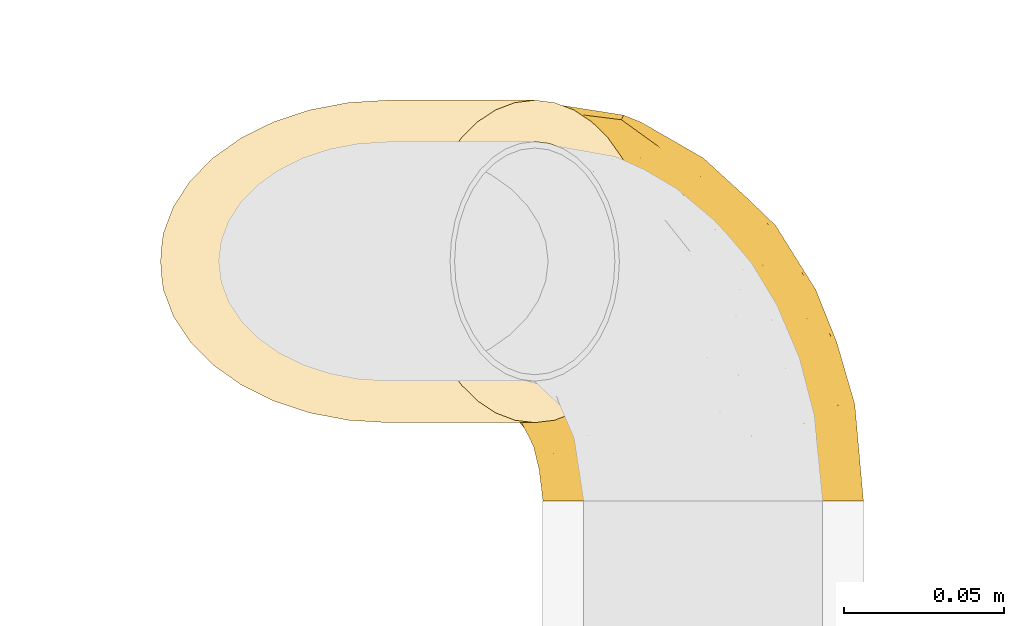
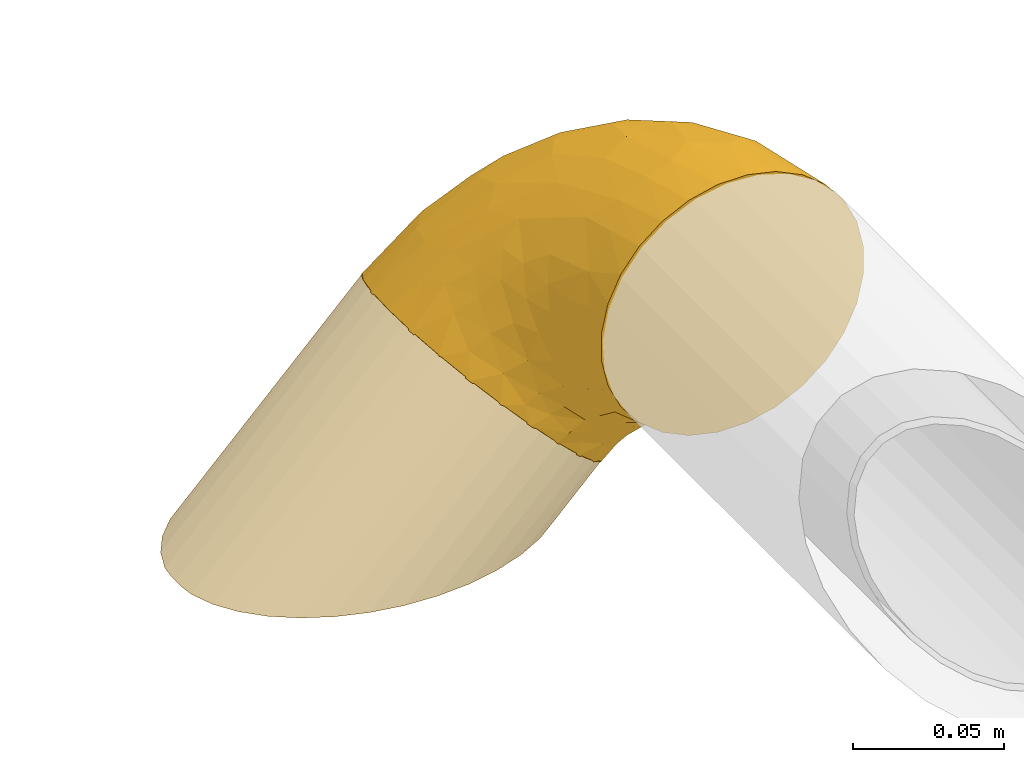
# One storey, part 36 of 156: 2 coverings.
"""IFC2X3 building model written with IfcOpenShell, lengths in millimetres."""

from ifc_helpers import new_model, entity, si_unit, converted_unit, derived_unit, direction, frame, origin_with_axes, place, context, subcontext, project, spatial, open_shell, faceted_brep, surface_model, source, transform, mapped, element, save


model = new_model("IFC2X3")

# Units and contexts
model_context = context("Model", 3, precision=0.01, world=frame((0.0, 4.29681676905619e-09, 0.0)), true_north=direction((4.01073788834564e-13, 1.0)))
plan_context = context("Plan", 3, precision=0.01, world=frame((0.0, 4.29681676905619e-09, 0.0)), true_north=direction((4.01073788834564e-13, 1.0)))
body_context = subcontext(model_context, "Body", "Model", "MODEL_VIEW")
ifc_project = project(units=[converted_unit("PLANEANGLEUNIT", "DEGREE", entity("IfcPositiveLengthMeasure", 0.0174532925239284), si_unit("PLANEANGLEUNIT", "RADIAN"), dimensions=[0, 0, 0, 0, 0, 0, 0]), si_unit("AREAUNIT", "SQUARE_METRE"), si_unit("LENGTHUNIT", "METRE", prefix="MILLI"), si_unit("MASSUNIT", "GRAM", prefix="KILO"), si_unit("POWERUNIT", "WATT"), si_unit("PRESSUREUNIT", "PASCAL", prefix="KILO"), si_unit("FORCEUNIT", "NEWTON", prefix="KILO"), si_unit("ELECTRICVOLTAGEUNIT", "VOLT"), si_unit("ELECTRICCURRENTUNIT", "AMPERE"), si_unit("THERMODYNAMICTEMPERATUREUNIT", "DEGREE_CELSIUS"), si_unit("TIMEUNIT", "SECOND"), si_unit("VOLUMEUNIT", "CUBIC_METRE"), derived_unit("LINEARVELOCITYUNIT", [(si_unit("LENGTHUNIT", "METRE"), 1), (si_unit("TIMEUNIT", "SECOND"), -1)]), derived_unit("VOLUMETRICFLOWRATEUNIT", [(si_unit("VOLUMEUNIT", "CUBIC_METRE"), 1), (si_unit("TIMEUNIT", "SECOND"), -1)]), derived_unit("THERMALTRANSMITTANCEUNIT", [(si_unit("POWERUNIT", "WATT"), 1), (si_unit("THERMODYNAMICTEMPERATUREUNIT", "KELVIN"), -1), (si_unit("AREAUNIT", "SQUARE_METRE"), -1)]), derived_unit("SOUNDPRESSUREUNIT", [(si_unit("PRESSUREUNIT", "PASCAL"), 1)])], contexts=[model_context, plan_context])

# Site, building, storey
site_placement = place(None, frame((0.0, -4.29681676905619e-09, 0.0), z_axis=(0.0, 0.0, 1.0), x_axis=(1.0, 0.0, 0.0)))
site = spatial("IfcSite", under=ifc_project, at=site_placement, CompositionType="ELEMENT")
building_placement = place(site_placement, frame((0.0, 4.29681676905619e-09, 0.0), z_axis=(0.0, 0.0, 1.0), x_axis=(1.0, 0.0, 0.0)))
building = spatial("IfcBuilding", under=site, at=building_placement, Name="mc-building", CompositionType="ELEMENT")
storey_placement = place(building_placement, frame((0.0, 0.0, 205200.0), z_axis=(0.0, 0.0, 1.0), x_axis=(1.0, 0.0, 0.0)))
storey = spatial("IfcBuildingStorey", under=building, at=storey_placement, Name="Nivå D + 1,2 m", CompositionType="ELEMENT", Elevation=205200.0)

# Coverings
shared_shape = source(origin_with_axes(), body_context, "Body", "SurfaceModel", [
    surface_model("IfcShellBasedSurfaceModel", [(11.24292, 75.0, 49.23258), (-31.47888, 75.0, 39.48835), (0.0, 75.0, 50.5), (31.49394, 75.0, 39.47635), (21.91909, 75.0, 45.49509), (45.50245, 75.0, 21.90382), (-45.50245, 75.0, -21.90382), (-49.23258, 75.0, 11.24292), (-11.23089, 75.0, 49.23533), (-21.90382, 75.0, 45.50245), (-45.49509, 75.0, 21.91909), (-39.47635, 75.0, 31.49394), (-50.5, 75.0, 0.0), (49.23533, 75.0, 11.23089), (49.23258, 75.0, -11.24292), (39.47635, 75.0, -31.49394), (45.49509, 75.0, -21.91909), (31.47888, 75.0, -39.48835), (21.90382, 75.0, -45.50245), (-11.24292, 75.0, -49.23258), (11.23089, 75.0, -49.23533), (0.0, 75.0, -50.5), (-31.49394, 75.0, -39.47635), (-39.48835, 75.0, -31.47888), (-49.23533, 75.0, -11.23089), (-21.91909, 75.0, -45.49509), (50.5, 75.0, 0.0), (-75.0, 25.25, -43.73428), (-75.0, 50.5, 0.0), (-75.0, 48.77925, -13.07036), (-75.0, 43.73428, -25.25), (-75.0, 13.07036, 48.77925), (-75.0, 35.70889, -35.70889), (-75.0, 13.07036, -48.77925), (-75.0, 48.77925, 13.07036), (-75.0, 35.70889, 35.70889), (-75.0, 43.73428, 25.25), (-75.0, 25.25, 43.73428), (-75.0, 0.0, 50.5), (-75.0, 0.0, -50.5), (-75.0, -35.70889, -35.70889), (-75.0, -13.07036, -48.77925), (-75.0, -25.25, -43.73428), (-75.0, -25.25, 43.73428), (-75.0, -43.73428, -25.25), (-75.0, -48.77925, -13.07036), (-75.0, -50.5, 0.0), (-75.0, -35.70889, 35.70889), (-75.0, -13.07036, 48.77925), (-75.0, -43.73428, 25.25), (-75.0, -48.77925, 13.07036), (12.64934, -12.64934, 0.0), (26.53163, 1.23295, 0.0), (11.64011, -11.64012, 17.0697), (-36.21837, -44.35759, 0.0), (-43.96193, -45.82224, 8.69831), (-50.1633, -46.56625, 0.0), (-13.93902, -32.39238, 13.94061), (-27.04529, -32.26369, 27.28364), (-45.2062, -43.62199, 17.67364), (-52.64686, -39.03065, 29.20162), (6.1382, 52.8732, 49.67312), (-19.65704, -0.83379, 46.83764), (-49.45987, -19.06709, 45.22422), (-23.23209, -15.49393, 41.16316), (-49.7688, -7.34228, 49.26021), (-44.8156, -29.06527, 37.91745), (33.6367, 44.70154, 33.50702), (26.64162, 52.3117, 41.24235), (21.07138, 25.24575, 38.06097), (-4.22725, 24.69178, 49.09447), (-5.70904, 46.29874, 50.5), (-21.96699, 21.96699, 50.5), (0.2263, 8.20988, 43.53163), (35.45552, 17.83502, 10.6165), (44.35759, 36.21837, 0.0), (44.47618, 45.03363, 15.14065), (-46.29874, 5.70904, 50.5), (-27.11707, 6.63076, 49.78474), (33.03742, 23.23942, 23.31327), (39.48835, 75.0, 31.47888), (41.55445, 52.84592, 25.41048), (46.56625, 50.1633, 0.0), (4.57882, -11.26336, 27.48812), (22.55206, 4.12106, 21.73596), (19.66588, 8.90627, 30.22564), (-1.23295, -26.53163, 0.0), (12.07449, 31.0651, 45.19532), (17.71923, 53.83757, 46.32595), (3.04218, -2.48883, 36.42539), (-13.45794, -19.37586, 33.63512), (-18.72566, -35.44461, 0.0), (35.44461, 18.72566, 0.0), (-48.52842, 68.17879, 16.68598), (-55.27416, 12.69306, 49.57038), (-58.88306, 3.20586, 50.5), (-38.27136, 29.97394, 47.59046), (-23.57111, 41.59228, 48.61379), (-36.94496, 65.19489, 35.7157), (-27.7375, 65.85146, 42.76423), (-61.4974, 42.7792, 30.74245), (-63.84733, 32.17071, 40.06434), (-51.42312, 36.25154, 40.88495), (-45.46439, 62.06116, 26.87553), (-43.34221, 68.87219, 26.87553), (-36.51863, 43.60511, 43.68418), (-65.25465, 51.47265, 9.82931), (-62.75, 53.78238, 0.0), (-68.875, 52.14119, 0.0), (-51.88239, 69.84084, 0.0), (-64.63162, 17.93727, 47.55155), (-67.6261, 47.6319, 19.32551), (-68.85458, 40.6091, 30.74245), (-44.41033, 19.8553, 49.06838), (-54.82145, 23.11094, 46.65592), (-18.51685, 60.44696, 47.66853), (-54.54935, 48.93662, 28.23238), (-62.70186, 49.7903, 18.59835), (-3.20586, 58.88306, 50.5), (-61.04403, 53.85982, 9.12542), (-30.90564, 55.6835, 42.76423), (-40.3113, 56.53409, 35.71531), (-52.18855, 61.13263, 14.72938), (-53.78238, 62.75, 0.0), (-56.73444, 57.02186, 10.61847), (-58.26619, 58.26619, 0.0), (-13.83801, 34.13287, 50.5), (-70.20679, 50.0494, 9.52724), (-46.98514, 47.44109, 35.7157), (-50.60359, 55.15507, 25.56392), (-52.83369, 43.2423, 35.13728), (-58.30018, 52.78702, 17.93024), (-34.13287, 13.83801, 50.5), (-51.7235, 52.67811, -26.88284), (-57.10258, 45.71425, -29.92521), (-56.9186, 54.00325, -17.71529), (-60.51936, 21.24165, -46.65592), (-70.0781, 47.08652, -19.32551), (-67.84416, 50.44944, -10.35086), (-64.15319, 48.81348, -19.32551), (-18.53163, 60.44501, -47.6637), (-62.8657, 52.46804, -10.44324), (-57.90228, 34.17845, -40.06435), (-65.95799, 41.25474, -30.74245), (-43.35228, 68.87084, -26.8602), (-48.5334, 68.17884, -16.67216), (-45.47548, 62.05985, -26.8602), (-36.95883, 65.19564, -35.70208), (-55.23148, 12.55824, -49.59768), (-52.18863, 61.13975, -14.71703), (-67.2194, 31.43175, -40.06434), (-55.97795, 58.02605, -9.97117), (-3.20586, 58.88306, -50.5), (-51.08787, 25.5783, -46.32865), (-41.32575, 29.23594, -47.11339), (-44.57478, 19.12548, -49.20135), (-23.58829, 41.57625, -48.61219), (-31.49814, 46.19734, -45.04631), (-38.07713, 57.85881, -37.07141), (-30.92319, 55.68162, -42.7546), (-38.79962, 50.15024, -39.79427), (-27.75338, 65.85005, -42.7546), (-40.50037, 40.68263, -43.08729), (-31.85017, 34.10086, -48.04724), (-5.70904, 46.29874, -50.5), (-21.96699, 21.96699, -50.5), (-13.83801, 34.13287, -50.5), (-32.99402, 23.81556, -49.7299), (-58.88306, 3.20586, -50.5), (-49.98369, 39.29273, -39.54988), (-47.00535, 47.43996, -35.70209), (-69.84084, 51.88239, 0.0), (-44.82061, 55.09846, -32.26415), (-49.27707, 57.82009, -24.66381), (-46.29874, 5.70904, -50.5), (-34.13287, 13.83801, -50.5), (-27.12034, 6.63398, -49.78551), (-44.8115, -29.06446, -37.91714), (-49.45933, -19.06701, -45.22419), (-23.22135, -15.48723, -41.1635), (3.03431, -2.47986, -36.43681), (0.21934, 8.21978, -43.53855), (21.06009, 25.25195, -38.07219), (19.65845, 8.91335, -30.23922), (-4.23256, 24.69711, -49.09625), (-49.7688, -7.34228, -49.26021), (-43.96192, -45.82226, -8.69822), (-45.20209, -43.62105, -17.67341), (-19.66242, -0.82834, -46.8407), (12.06287, 31.07048, -45.20169), (-52.64059, -39.02974, -29.20117), (-27.03461, -32.25951, -27.28279), (11.63925, -11.63926, -17.0731), (4.56555, -11.2681, -27.49661), (6.13272, 52.87845, -49.67434), (44.47172, 45.03273, -15.15371), (33.62422, 44.70155, -33.52058), (35.44701, 17.82392, -10.62791), (26.62716, 52.31215, -41.25239), (-13.93805, -32.39219, -13.93949), (22.54286, 4.11912, -21.74918), (33.03036, 23.24222, -23.32782), (41.54481, 52.84076, -25.42509), (-13.43916, -19.35244, -33.6456), (17.70473, 53.84028, -46.33234)], [open_shell([[[0, 1, 2]], [[3, 0, 4]], [[0, 5, 1]], [[5, 6, 7]], [[8, 1, 9]], [[8, 2, 1]], [[10, 11, 7]], [[7, 11, 1]], [[5, 7, 1]], [[6, 12, 7]], [[5, 13, 6]], [[6, 13, 14]], [[15, 14, 16]], [[15, 17, 18]], [[18, 19, 14]], [[18, 14, 15]], [[20, 21, 18]], [[6, 22, 23]], [[24, 12, 6]], [[19, 22, 6]], [[25, 22, 19]], [[6, 14, 19]], [[21, 19, 18]], [[13, 26, 14]], [[27, 28, 29]], [[27, 29, 30]], [[28, 27, 31]], [[27, 30, 32]], [[31, 27, 33]], [[34, 35, 36]], [[35, 34, 31]], [[35, 31, 37]], [[34, 28, 31]], [[33, 38, 31]], [[33, 39, 38]], [[40, 39, 41]], [[40, 41, 42]], [[43, 40, 44]], [[40, 43, 38]], [[45, 46, 44]], [[43, 46, 47]], [[48, 38, 43]], [[49, 46, 50]], [[46, 49, 47]], [[44, 46, 43]], [[38, 39, 40]], [[51, 52, 53]], [[54, 55, 56]], [[57, 58, 59]], [[59, 58, 60]], [[61, 0, 2]], [[62, 63, 64]], [[49, 50, 59]], [[48, 63, 65]], [[47, 66, 43]], [[60, 47, 49]], [[67, 68, 69]], [[68, 3, 4]], [[70, 71, 72]], [[38, 48, 65]], [[62, 64, 73]], [[74, 75, 76]], [[77, 78, 72]], [[74, 76, 79]], [[68, 67, 3]], [[63, 43, 66]], [[5, 76, 13]], [[47, 60, 66]], [[5, 80, 81]], [[76, 82, 13]], [[78, 70, 72]], [[53, 83, 57]], [[53, 84, 83]], [[67, 80, 3]], [[61, 2, 71]], [[67, 69, 85]], [[50, 56, 55]], [[53, 86, 51]], [[87, 88, 61]], [[87, 68, 88]], [[43, 63, 48]], [[83, 89, 90]], [[79, 76, 81]], [[55, 91, 57]], [[79, 67, 85]], [[81, 76, 5]], [[73, 70, 62]], [[59, 60, 49]], [[57, 59, 55]], [[57, 86, 53]], [[88, 68, 4]], [[69, 68, 87]], [[73, 69, 87]], [[69, 89, 85]], [[80, 67, 81]], [[79, 81, 67]], [[64, 63, 66]], [[62, 78, 65]], [[90, 66, 58]], [[73, 64, 89]], [[62, 65, 63]], [[38, 65, 77]], [[71, 70, 61]], [[87, 61, 70]], [[74, 79, 84]], [[74, 52, 92]], [[4, 0, 88]], [[61, 88, 0]], [[82, 76, 75]], [[82, 26, 13]], [[66, 60, 58]], [[50, 46, 56]], [[50, 55, 59]], [[65, 78, 77]], [[70, 78, 62]], [[83, 85, 89]], [[84, 79, 85]], [[90, 89, 64]], [[57, 83, 58]], [[66, 90, 64]], [[58, 83, 90]], [[83, 84, 85]], [[74, 84, 53]], [[69, 73, 89]], [[70, 73, 87]], [[53, 52, 74]], [[91, 55, 54]], [[91, 86, 57]], [[75, 74, 92]], [[10, 7, 93]], [[77, 94, 95]], [[96, 72, 97]], [[94, 31, 95]], [[98, 99, 1]], [[100, 101, 102]], [[103, 104, 93]], [[105, 102, 96]], [[106, 107, 108]], [[7, 109, 93]], [[110, 101, 37]], [[36, 111, 34]], [[35, 112, 36]], [[36, 112, 111]], [[7, 12, 109]], [[113, 96, 114]], [[97, 71, 115]], [[100, 116, 117]], [[98, 1, 11]], [[9, 99, 115]], [[31, 94, 110]], [[11, 10, 104]], [[115, 118, 8]], [[9, 115, 8]], [[106, 119, 107]], [[120, 99, 98]], [[121, 120, 98]], [[103, 93, 122]], [[93, 123, 122]], [[124, 123, 125]], [[97, 115, 120]], [[104, 98, 11]], [[37, 101, 35]], [[121, 98, 103]], [[97, 105, 96]], [[9, 1, 99]], [[97, 72, 126]], [[123, 93, 109]], [[111, 106, 127]], [[128, 129, 116]], [[129, 103, 122]], [[102, 101, 114]], [[112, 101, 100]], [[125, 119, 124]], [[129, 128, 121]], [[96, 102, 114]], [[130, 128, 116]], [[113, 114, 94]], [[97, 120, 105]], [[118, 115, 71]], [[118, 2, 8]], [[34, 127, 28]], [[115, 99, 120]], [[93, 104, 10]], [[98, 104, 103]], [[124, 129, 122]], [[119, 125, 107]], [[116, 129, 131]], [[31, 38, 95]], [[132, 113, 77]], [[94, 114, 110]], [[96, 132, 72]], [[77, 113, 94]], [[132, 96, 113]], [[101, 110, 114]], [[37, 31, 110]], [[127, 106, 108]], [[117, 106, 111]], [[121, 105, 120]], [[102, 105, 128]], [[28, 127, 108]], [[111, 127, 34]], [[129, 121, 103]], [[105, 121, 128]], [[117, 116, 131]], [[130, 100, 102]], [[101, 112, 35]], [[111, 112, 100]], [[100, 117, 111]], [[119, 117, 131]], [[117, 119, 106]], [[119, 131, 124]], [[129, 124, 131]], [[123, 124, 122]], [[100, 130, 116]], [[102, 128, 130]], [[126, 71, 97]], [[133, 134, 135]], [[27, 136, 33]], [[137, 138, 139]], [[140, 25, 19]], [[141, 138, 107]], [[134, 142, 143]], [[144, 145, 6]], [[146, 144, 147]], [[148, 33, 136]], [[145, 146, 149]], [[150, 27, 32]], [[30, 137, 143]], [[125, 151, 141]], [[27, 150, 136]], [[109, 12, 24]], [[140, 19, 152]], [[149, 123, 145]], [[153, 154, 155]], [[145, 123, 109]], [[145, 24, 6]], [[137, 30, 29]], [[148, 153, 155]], [[140, 156, 157]], [[22, 147, 23]], [[158, 159, 160]], [[22, 25, 161]], [[158, 147, 159]], [[162, 157, 163]], [[164, 140, 152]], [[30, 143, 32]], [[161, 147, 22]], [[161, 140, 159]], [[162, 160, 157]], [[156, 140, 164]], [[165, 156, 166]], [[23, 144, 6]], [[154, 167, 155]], [[109, 24, 145]], [[33, 148, 168]], [[162, 169, 170]], [[141, 151, 135]], [[29, 28, 171]], [[134, 143, 139]], [[150, 143, 142]], [[146, 172, 173]], [[149, 135, 151]], [[19, 21, 152]], [[140, 161, 25]], [[147, 161, 159]], [[147, 144, 23]], [[145, 144, 146]], [[135, 134, 139]], [[134, 170, 169]], [[141, 139, 138]], [[172, 133, 173]], [[168, 148, 174]], [[168, 39, 33]], [[167, 165, 175]], [[175, 174, 155]], [[148, 155, 174]], [[163, 167, 154]], [[175, 155, 167]], [[153, 148, 136]], [[136, 142, 153]], [[169, 153, 142]], [[162, 163, 154]], [[163, 156, 165]], [[154, 153, 169]], [[160, 162, 170]], [[154, 169, 162]], [[134, 169, 142]], [[172, 160, 170]], [[157, 160, 159]], [[133, 172, 170]], [[158, 146, 147]], [[134, 133, 170]], [[173, 135, 149]], [[140, 157, 159]], [[157, 156, 163]], [[160, 172, 158]], [[146, 158, 172]], [[135, 173, 133]], [[149, 151, 123]], [[149, 146, 173]], [[143, 150, 32]], [[136, 150, 142]], [[138, 29, 171]], [[143, 137, 139]], [[29, 138, 137]], [[107, 138, 171]], [[125, 141, 107]], [[135, 139, 141]], [[156, 164, 166]], [[165, 167, 163]], [[123, 151, 125]], [[174, 165, 176]], [[177, 178, 179]], [[180, 179, 181]], [[180, 182, 183]], [[165, 164, 184]], [[174, 185, 39]], [[178, 42, 41]], [[177, 42, 178]], [[186, 45, 187]], [[176, 184, 188]], [[181, 184, 189]], [[190, 187, 44]], [[44, 187, 45]], [[190, 177, 191]], [[51, 86, 192]], [[177, 40, 42]], [[183, 193, 180]], [[189, 184, 194]], [[21, 194, 164]], [[192, 52, 51]], [[21, 20, 194]], [[16, 14, 195]], [[15, 196, 17]], [[197, 75, 92]], [[195, 14, 82]], [[196, 198, 17]], [[199, 187, 191]], [[197, 192, 200]], [[201, 195, 197]], [[15, 16, 202]], [[189, 198, 182]], [[202, 16, 195]], [[75, 195, 82]], [[188, 178, 185]], [[177, 179, 203]], [[202, 201, 196]], [[183, 182, 196]], [[190, 44, 40]], [[17, 198, 18]], [[18, 198, 204]], [[45, 186, 56]], [[199, 91, 186]], [[199, 191, 193]], [[91, 54, 186]], [[182, 198, 196]], [[204, 198, 189]], [[183, 196, 201]], [[181, 182, 180]], [[201, 202, 195]], [[196, 15, 202]], [[185, 178, 41]], [[179, 178, 188]], [[181, 179, 188]], [[180, 193, 203]], [[39, 185, 41]], [[185, 174, 176]], [[194, 20, 204]], [[184, 164, 194]], [[75, 197, 195]], [[197, 52, 192]], [[194, 204, 189]], [[20, 18, 204]], [[14, 26, 82]], [[177, 190, 40]], [[187, 190, 191]], [[56, 186, 54]], [[56, 46, 45]], [[199, 186, 187]], [[184, 176, 165]], [[185, 176, 188]], [[201, 200, 183]], [[183, 200, 193]], [[199, 193, 192]], [[180, 203, 179]], [[193, 191, 203]], [[177, 203, 191]], [[197, 200, 201]], [[193, 200, 192]], [[184, 181, 188]], [[182, 181, 189]], [[192, 86, 199]], [[199, 86, 91]], [[92, 52, 197]], [[3, 80, 5]], [[0, 3, 5]]])]),
])
covering_1_placement = place(storey_placement, frame((338407.25109, 461168.55164, 4098.75644), z_axis=(0.707106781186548, 0.0, -0.707106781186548), x_axis=(0.707106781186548, 0.0, 0.707106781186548)))
element("IfcCovering", 1, at=covering_1_placement, inside=storey, Name="BI17T - Cellegummi 13 mm SPV fett", PredefinedType="INSULATION", context=body_context, shape_type="MappedRepresentation", body=[
    mapped(shared_shape, transform((0.0, 0.0, 0.0), scale=1.0)),
])
covering_2_placement = place(storey_placement, frame((338273.03847, 461168.55164, 3964.54381), z_axis=(-0.707106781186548, 0.0, 0.707106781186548), x_axis=(0.707106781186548, 0.0, 0.707106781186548)))
element("IfcCovering", 2, at=covering_2_placement, inside=storey, Name="BI17T - Cellegummi 13 mm SPV fett", PredefinedType="INSULATION", context=body_context, shape_type="Brep", body=[
    faceted_brep([(56.6544314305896, 36.9302907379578, -6.51180666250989), (50.1426247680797, 37.5, 0.0), (115.2, 37.5, 0.0), (115.2, 36.9302907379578, -6.51180666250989), (62.9683801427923, 35.2384732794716, -12.8257553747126), (115.2, 35.2384732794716, -12.8257553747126), (68.8926247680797, 32.4759526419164, -18.75), (115.2, 32.4759526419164, -18.75), (74.2471601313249, 28.7266666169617, -24.1045353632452), (115.2, 28.7266666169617, -24.1045353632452), (78.8692913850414, 24.1045353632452, -28.7266666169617), (115.2, 24.1045353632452, -28.7266666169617), (82.6185774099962, 18.75, -32.4759526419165), (115.2, 18.75, -32.4759526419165), (85.3810980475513, 12.8257553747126, -35.2384732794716), (115.2, 12.8257553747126, -35.2384732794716), (87.0729155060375, 6.51180666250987, -36.9302907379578), (115.2, 6.51180666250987, -36.9302907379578), (87.6426247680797, -6.88863824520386e-15, -37.5), (115.2, -6.88863824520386e-15, -37.5), (87.0729155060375, -6.51180666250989, -36.9302907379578), (115.2, -6.51180666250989, -36.9302907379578), (85.3810980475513, -12.8257553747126, -35.2384732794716), (115.2, -12.8257553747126, -35.2384732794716), (82.6185774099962, -18.75, -32.4759526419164), (115.2, -18.75, -32.4759526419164), (78.8692913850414, -24.1045353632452, -28.7266666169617), (115.2, -24.1045353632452, -28.7266666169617), (74.2471601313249, -28.7266666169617, -24.1045353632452), (115.2, -28.7266666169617, -24.1045353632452), (68.8926247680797, -32.4759526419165, -18.75), (115.2, -32.4759526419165, -18.75), (62.9683801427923, -35.2384732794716, -12.8257553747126), (115.2, -35.2384732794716, -12.8257553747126), (56.6544314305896, -36.9302907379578, -6.51180666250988), (115.2, -36.9302907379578, -6.51180666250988), (50.1426247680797, -37.5, 4.59242549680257e-15), (115.2, -37.5, 4.59242549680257e-15), (43.6308181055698, -36.9302907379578, 6.5118066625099), (115.2, -36.9302907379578, 6.5118066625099), (37.3168693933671, -35.2384732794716, 12.8257553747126), (115.2, -35.2384732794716, 12.8257553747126), (31.3926247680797, -32.4759526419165, 18.75), (115.2, -32.4759526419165, 18.75), (26.0380894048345, -28.7266666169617, 24.1045353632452), (115.2, -28.7266666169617, 24.1045353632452), (21.415958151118, -24.1045353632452, 28.7266666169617), (115.2, -24.1045353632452, 28.7266666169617), (17.6666721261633, -18.75, 32.4759526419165), (115.2, -18.75, 32.4759526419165), (14.9041514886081, -12.8257553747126, 35.2384732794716), (115.2, -12.8257553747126, 35.2384732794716), (13.2123340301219, -6.51180666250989, 36.9302907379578), (115.2, -6.51180666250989, 36.9302907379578), (12.6426247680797, 2.29621274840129e-15, 37.5), (115.2, 2.29621274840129e-15, 37.5), (13.2123340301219, 6.51180666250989, 36.9302907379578), (115.2, 6.51180666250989, 36.9302907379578), (14.9041514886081, 12.8257553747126, 35.2384732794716), (115.2, 12.8257553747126, 35.2384732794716), (17.6666721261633, 18.75, 32.4759526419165), (115.2, 18.75, 32.4759526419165), (21.415958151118, 24.1045353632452, 28.7266666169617), (115.2, 24.1045353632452, 28.7266666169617), (26.0380894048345, 28.7266666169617, 24.1045353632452), (115.2, 28.7266666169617, 24.1045353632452), (31.3926247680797, 32.4759526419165, 18.75), (115.2, 32.4759526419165, 18.75), (37.3168693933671, 35.2384732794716, 12.8257553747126), (115.2, 35.2384732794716, 12.8257553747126), (43.6308181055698, 36.9302907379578, 6.51180666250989), (115.2, 36.9302907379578, 6.51180666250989), (50.1426247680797, 50.5, 0.0), (58.9118577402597, 49.7327915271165, -8.76923297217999), (115.2, 49.7327915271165, -8.76923297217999), (115.2, 50.5, 0.0), (41.3733917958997, 49.7327915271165, 8.76923297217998), (115.2, 49.7327915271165, 8.76923297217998), (32.8706075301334, 47.4544773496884, 17.2720172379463), (115.2, 47.4544773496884, 17.2720172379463), (24.8926247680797, 43.7342828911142, 25.25), (115.2, 43.7342828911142, 25.25), (17.6818504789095, 38.6852443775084, 32.4607742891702), (115.2, 38.6852443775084, 32.4607742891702), (11.4573803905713, 32.4607742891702, 38.6852443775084), (115.2, 32.4607742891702, 38.6852443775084), (6.40834187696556, 25.25, 43.7342828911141), (115.2, 25.25, 43.7342828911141), (2.68814741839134, 17.2720172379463, 47.4544773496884), (115.2, 17.2720172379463, 47.4544773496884), (0.409833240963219, 8.76923297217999, 49.7327915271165), (115.2, 8.76923297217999, 49.7327915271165), (0.0, 4.08481759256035, 50.1426247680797), (115.2, 3.09223316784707e-15, 50.5), (0.0, 3.09223316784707e-15, 50.5), (0.409833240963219, -8.76923297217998, 49.7327915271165), (0.0, -4.08481759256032, 50.1426247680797), (115.2, -8.76923297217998, 49.7327915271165), (2.68814741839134, -17.2720172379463, 47.4544773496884), (115.2, -17.2720172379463, 47.4544773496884), (6.40834187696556, -25.25, 43.7342828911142), (115.2, -25.25, 43.7342828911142), (11.4573803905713, -32.4607742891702, 38.6852443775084), (115.2, -32.4607742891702, 38.6852443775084), (17.6818504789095, -38.6852443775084, 32.4607742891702), (115.2, -38.6852443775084, 32.4607742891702), (24.8926247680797, -43.7342828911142, 25.25), (115.2, -43.7342828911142, 25.25), (32.8706075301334, -47.4544773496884, 17.2720172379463), (115.2, -47.4544773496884, 17.2720172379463), (41.3733917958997, -49.7327915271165, 8.76923297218), (115.2, -49.7327915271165, 8.76923297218), (50.1426247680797, -50.5, 6.18446633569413e-15), (115.2, -50.5, 6.18446633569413e-15), (58.9118577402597, -49.7327915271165, -8.76923297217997), (115.2, -49.7327915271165, -8.76923297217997), (67.414642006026, -47.4544773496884, -17.2720172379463), (115.2, -47.4544773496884, -17.2720172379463), (75.3926247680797, -43.7342828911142, -25.25), (115.2, -43.7342828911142, -25.25), (82.60339905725, -38.6852443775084, -32.4607742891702), (115.2, -38.6852443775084, -32.4607742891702), (88.8278691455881, -32.4607742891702, -38.6852443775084), (115.2, -32.4607742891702, -38.6852443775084), (93.8769076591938, -25.25, -43.7342828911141), (115.2, -25.25, -43.7342828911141), (97.5971021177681, -17.2720172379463, -47.4544773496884), (115.2, -17.2720172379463, -47.4544773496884), (99.8754162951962, -8.76923297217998, -49.7327915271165), (115.2, -8.76923297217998, -49.7327915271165), (100.64262476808, -9.2766995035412e-15, -50.5), (115.2, -9.2766995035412e-15, -50.5), (99.8754162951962, 8.76923297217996, -49.7327915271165), (115.2, 8.76923297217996, -49.7327915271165), (97.5971021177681, 17.2720172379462, -47.4544773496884), (115.2, 17.2720172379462, -47.4544773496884), (93.8769076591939, 25.25, -43.7342828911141), (115.2, 25.25, -43.7342828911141), (88.8278691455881, 32.4607742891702, -38.6852443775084), (115.2, 32.4607742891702, -38.6852443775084), (82.60339905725, 38.6852443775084, -32.4607742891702), (115.2, 38.6852443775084, -32.4607742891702), (75.3926247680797, 43.7342828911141, -25.25), (115.2, 43.7342828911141, -25.25), (67.414642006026, 47.4544773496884, -17.2720172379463), (115.2, 47.4544773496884, -17.2720172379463)], [[[0, 1, 2, 3]], [[4, 0, 3, 5]], [[6, 4, 5, 7]], [[8, 6, 7, 9]], [[10, 8, 9, 11]], [[12, 10, 11, 13]], [[14, 12, 13, 15]], [[16, 14, 15, 17]], [[18, 16, 17, 19]], [[20, 18, 19, 21]], [[22, 20, 21, 23]], [[24, 22, 23, 25]], [[26, 24, 25, 27]], [[28, 26, 27, 29]], [[30, 28, 29, 31]], [[32, 30, 31, 33]], [[34, 32, 33, 35]], [[36, 34, 35, 37]], [[38, 36, 37, 39]], [[40, 38, 39, 41]], [[42, 40, 41, 43]], [[44, 42, 43, 45]], [[46, 44, 45, 47]], [[48, 46, 47, 49]], [[50, 48, 49, 51]], [[52, 50, 51, 53]], [[54, 52, 53, 55]], [[56, 54, 55, 57]], [[58, 56, 57, 59]], [[60, 58, 59, 61]], [[62, 60, 61, 63]], [[64, 62, 63, 65]], [[66, 64, 65, 67]], [[68, 66, 67, 69]], [[70, 68, 69, 71]], [[1, 70, 71, 2]], [[72, 73, 74, 75]], [[76, 72, 75, 77]], [[78, 76, 77, 79]], [[80, 78, 79, 81]], [[82, 80, 81, 83]], [[84, 82, 83, 85]], [[86, 84, 85, 87]], [[88, 86, 87, 89]], [[90, 88, 89, 91]], [[92, 90, 91, 93, 94]], [[95, 96, 94, 93, 97]], [[98, 95, 97, 99]], [[100, 98, 99, 101]], [[102, 100, 101, 103]], [[104, 102, 103, 105]], [[106, 104, 105, 107]], [[108, 106, 107, 109]], [[110, 108, 109, 111]], [[112, 110, 111, 113]], [[114, 112, 113, 115]], [[116, 114, 115, 117]], [[118, 116, 117, 119]], [[120, 118, 119, 121]], [[122, 120, 121, 123]], [[124, 122, 123, 125]], [[126, 124, 125, 127]], [[128, 126, 127, 129]], [[130, 128, 129, 131]], [[132, 130, 131, 133]], [[134, 132, 133, 135]], [[136, 134, 135, 137]], [[138, 136, 137, 139]], [[140, 138, 139, 141]], [[142, 140, 141, 143]], [[144, 142, 143, 145]], [[73, 144, 145, 74]], [[96, 92, 94]], [[75, 74, 145, 143, 141, 139, 137, 135, 133, 131, 129, 127, 125, 123, 121, 119, 117, 115, 113, 111, 109, 107, 105, 103, 101, 99, 97, 93, 91, 89, 87, 85, 83, 81, 79, 77], [2, 71, 69, 67, 65, 63, 61, 59, 57, 55, 53, 51, 49, 47, 45, 43, 41, 39, 37, 35, 33, 31, 29, 27, 25, 23, 21, 19, 17, 15, 13, 11, 9, 7, 5, 3]], [[76, 78, 80, 82, 84, 86, 88, 90, 92, 96, 95, 98, 100, 102, 104, 106, 108, 110, 112, 114, 116, 118, 120, 122, 124, 126, 128, 130, 132, 134, 136, 138, 140, 142, 144, 73, 72], [4, 6, 8, 10, 12, 14, 16, 18, 20, 22, 24, 26, 28, 30, 32, 34, 36, 38, 40, 42, 44, 46, 48, 50, 52, 54, 56, 58, 60, 62, 64, 66, 68, 70, 1, 0]]], orient=[[False], [False], [False], [False], [False], [False], [False], [False], [False], [False], [False], [False], [False], [False], [False], [False], [False], [False], [False], [False], [False], [False], [False], [False], [False], [False], [False], [False], [False], [False], [False], [False], [False], [False], [False], [False], [False], [False], [False], [False], [False], [False], [False], [False], [False], [False], [False], [False], [False], [False], [False], [False], [False], [False], [False], [False], [False], [False], [False], [False], [False], [False], [False], [False], [False], [False], [False], [False], [False], [False], [False], [False], [False], [False, False], [False, False]]),
])

save(model, "model.ifc")
